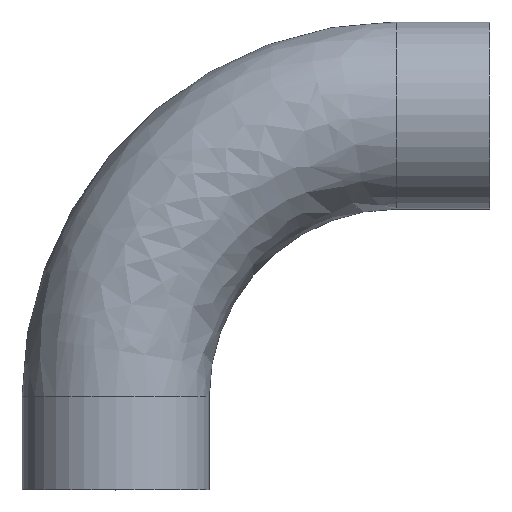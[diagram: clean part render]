
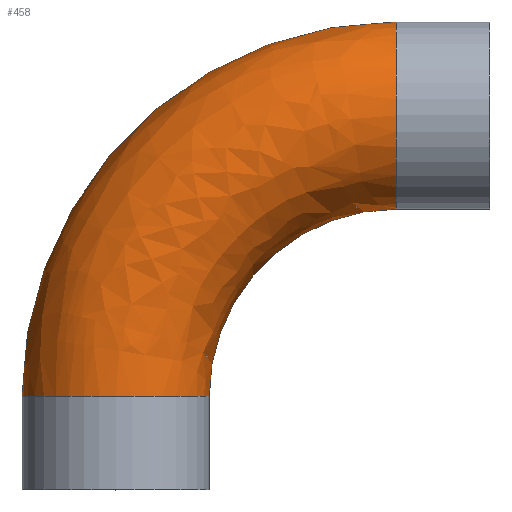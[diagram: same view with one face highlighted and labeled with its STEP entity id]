
A CAD part, top view. The second image highlights one B-rep face of the part: STEP entity #458.
In plain terms, the highlighted free-form (B-spline) face has degree [3, 3] with [4, 4] control points.
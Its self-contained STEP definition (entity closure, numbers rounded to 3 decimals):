
#2 = CARTESIAN_POINT ( 'NONE',  ( -50.8, 50.8, 0. ) ) ;
#5 = EDGE_CURVE ( 'NONE', #49, #277, #438, .T. ) ;
#24 = CARTESIAN_POINT ( 'NONE',  ( 152.4, 152.4, 101.6 ) ) ;
#35 = DIRECTION ( 'NONE',  ( -1., 0., 0. ) ) ;
#49 = VERTEX_POINT ( 'NONE', #2 ) ;
#84 = CARTESIAN_POINT ( 'NONE',  ( 50.8, 50.8, 0. ) ) ;
#88 = EDGE_LOOP ( 'NONE', ( #259, #168, #143, #147 ) ) ;
#99 = AXIS2_PLACEMENT_3D ( 'NONE', #281, #302, #107 ) ;
#106 = AXIS2_PLACEMENT_3D ( 'NONE', #215, #216, #220 ) ;
#107 = DIRECTION ( 'NONE',  ( -1., 0., 0. ) ) ;
#141 = FACE_OUTER_BOUND ( 'NONE', #88, .T. ) ;
#143 = ORIENTED_EDGE ( 'NONE', *, *, #170, .T. ) ;
#147 = ORIENTED_EDGE ( 'NONE', *, *, #5, .F. ) ;
#149 = DIRECTION ( 'NONE',  ( 0., 0., -1. ) ) ;
#152 = EDGE_CURVE ( 'NONE', #218, #289, #415, .T. ) ;
#168 = ORIENTED_EDGE ( 'NONE', *, *, #152, .T. ) ;
#170 = EDGE_CURVE ( 'NONE', #289, #277, #405, .T. ) ;
#174 = AXIS2_PLACEMENT_3D ( 'NONE', #248, #260, #261 ) ;
#191 = EDGE_CURVE ( 'NONE', #49, #218, #368, .T. ) ;
#215 = CARTESIAN_POINT ( 'NONE',  ( 152.4, 50.8, 0. ) ) ;
#216 = DIRECTION ( 'NONE',  ( 0., 0., -1. ) ) ;
#218 = VERTEX_POINT ( 'NONE', #84 ) ;
#220 = DIRECTION ( 'NONE',  ( -1., 0., 0. ) ) ;
#238 = CARTESIAN_POINT ( 'NONE',  ( 152.4, 50.8, 0. ) ) ;
#248 = CARTESIAN_POINT ( 'NONE',  ( 152.4, 203.2, 0. ) ) ;
#259 = ORIENTED_EDGE ( 'NONE', *, *, #191, .T. ) ;
#260 = DIRECTION ( 'NONE',  ( -1., 0., 0. ) ) ;
#261 = DIRECTION ( 'NONE',  ( 0., 1., 0. ) ) ;
#270 = CARTESIAN_POINT ( 'NONE',  ( 50.8, 50.8, 0. ) ) ;
#272 = CARTESIAN_POINT ( 'NONE',  ( 50.8, 110.316, 0. ) ) ;
#276 = CARTESIAN_POINT ( 'NONE',  ( 152.4, 254., 101.6 ) ) ;
#277 = VERTEX_POINT ( 'NONE', #432 ) ;
#280 = CARTESIAN_POINT ( 'NONE',  ( 92.884, 152.4, 101.6 ) ) ;
#281 = CARTESIAN_POINT ( 'NONE',  ( 0., 50.8, 0. ) ) ;
#288 = CARTESIAN_POINT ( 'NONE',  ( -50.8, 169.832, 101.6 ) ) ;
#289 = VERTEX_POINT ( 'NONE', #465 ) ;
#290 = CARTESIAN_POINT ( 'NONE',  ( 50.8, 50.8, 101.6 ) ) ;
#302 = DIRECTION ( 'NONE',  ( 0., 1., 0. ) ) ;
#312 = CARTESIAN_POINT ( 'NONE',  ( -50.8, 50.8, 101.6 ) ) ;
#319 = CARTESIAN_POINT ( 'NONE',  ( 33.368, 254., 101.6 ) ) ;
#322 = CARTESIAN_POINT ( 'NONE',  ( 152.4, 254., 0. ) ) ;
#323 = CARTESIAN_POINT ( 'NONE',  ( 33.368, 254., 0. ) ) ;
#348 = CARTESIAN_POINT ( 'NONE',  ( -50.8, 169.832, 0. ) ) ;
#352 = CARTESIAN_POINT ( 'NONE',  ( -50.8, 50.8, 0. ) ) ;
#354 = CARTESIAN_POINT ( 'NONE',  ( 92.884, 152.4, 0. ) ) ;
#359 =( BOUNDED_SURFACE ( )  B_SPLINE_SURFACE ( 3, 3, ( 
 ( #352, #348, #323, #322 ),
 ( #312, #288, #319, #276 ),
 ( #290, #436, #280, #24 ),
 ( #270, #272, #354, #376 ) ),
 .UNSPECIFIED., .F., .F., .F. ) 
 B_SPLINE_SURFACE_WITH_KNOTS ( ( 4, 4 ),
 ( 4, 4 ),
 ( 0., 1. ),
 ( 0., 1. ),
 .UNSPECIFIED. ) 
 GEOMETRIC_REPRESENTATION_ITEM ( )  RATIONAL_B_SPLINE_SURFACE ( (
 ( 1., 0.805, 0.805, 1.),
 ( 0.333, 0.268, 0.268, 0.333),
 ( 0.333, 0.268, 0.268, 0.333),
 ( 1., 0.805, 0.805, 1.) ) ) 
 REPRESENTATION_ITEM ( '' )  SURFACE ( )  );
#368 = CIRCLE ( 'NONE', #99, 50.8 ) ;
#376 = CARTESIAN_POINT ( 'NONE',  ( 152.4, 152.4, 0. ) ) ;
#384 = AXIS2_PLACEMENT_3D ( 'NONE', #238, #149, #35 ) ;
#405 = CIRCLE ( 'NONE', #174, 50.8 ) ;
#415 = CIRCLE ( 'NONE', #106, 101.6 ) ;
#432 = CARTESIAN_POINT ( 'NONE',  ( 152.4, 254., 0. ) ) ;
#436 = CARTESIAN_POINT ( 'NONE',  ( 50.8, 110.316, 101.6 ) ) ;
#438 = CIRCLE ( 'NONE', #384, 203.2 ) ;
#458 = ADVANCED_FACE ( 'NONE', ( #141 ), #359, .T. ) ;
#465 = CARTESIAN_POINT ( 'NONE',  ( 152.4, 152.4, 0. ) ) ;
